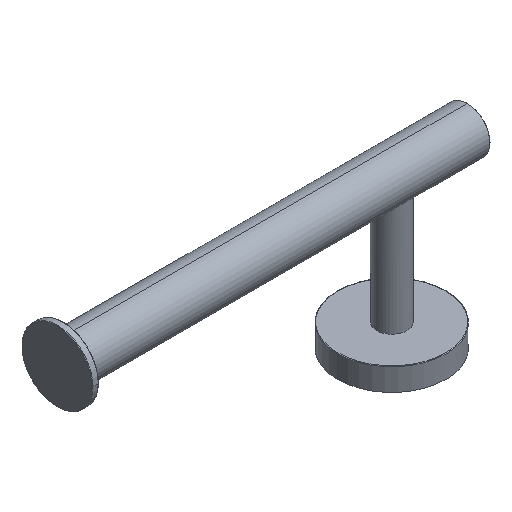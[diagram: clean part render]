
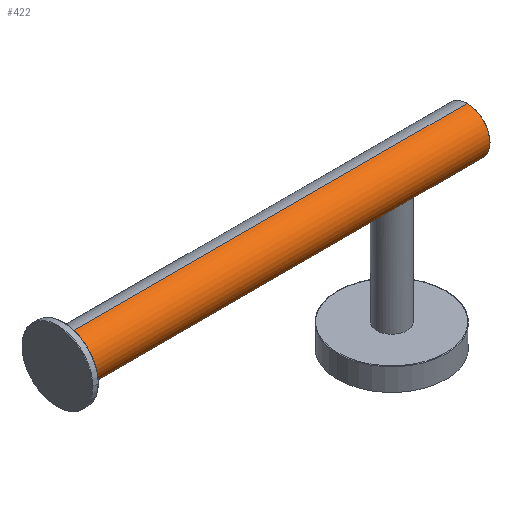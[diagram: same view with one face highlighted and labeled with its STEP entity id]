
A CAD part, isometric view. The second image highlights one B-rep face of the part: STEP entity #422.
In plain terms, the highlighted cylindrical face has radius 9 mm (diameter 18 mm), a partial arc.
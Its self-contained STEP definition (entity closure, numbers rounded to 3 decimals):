
#45=CARTESIAN_POINT('',(6.,0.,51.));
#64=CARTESIAN_POINT('',(-6.,0.,51.));
#80=DIRECTION('',(1.,0.,0.));
#81=VECTOR('',#80,124.);
#82=CARTESIAN_POINT('',(-130.,0.,51.));
#83=LINE('',#82,#81);
#84=DIRECTION('',(1.,0.,0.));
#85=VECTOR('',#84,23.8);
#86=CARTESIAN_POINT('',(6.,0.,51.));
#87=LINE('',#86,#85);
#108=CARTESIAN_POINT('',(29.8,0.,60.));
#109=DIRECTION('',(1.,0.,0.));
#110=DIRECTION('',(0.,0.,1.));
#111=AXIS2_PLACEMENT_3D('',#108,#109,#110);
#113=CARTESIAN_POINT('',(-130.,0.,60.));
#114=DIRECTION('',(1.,0.,0.));
#115=DIRECTION('',(0.,0.,1.));
#116=AXIS2_PLACEMENT_3D('',#113,#114,#115);
#118=DIRECTION('',(1.,0.,0.));
#119=VECTOR('',#118,159.8);
#120=CARTESIAN_POINT('',(-130.,0.,69.));
#121=LINE('',#120,#119);
#122=CARTESIAN_POINT('',(-6.,0.,51.));
#123=CARTESIAN_POINT('',(-6.,-0.373,51.));
#124=CARTESIAN_POINT('',(-5.932,-1.121,51.045));
#125=CARTESIAN_POINT('',(-5.602,-2.247,51.262));
#126=CARTESIAN_POINT('',(-5.099,-3.224,51.578));
#127=CARTESIAN_POINT('',(-4.439,-4.085,51.964));
#128=CARTESIAN_POINT('',(-3.632,-4.818,52.385));
#129=CARTESIAN_POINT('',(-2.686,-5.403,52.793));
#130=CARTESIAN_POINT('',(-1.662,-5.801,53.115));
#131=CARTESIAN_POINT('',(-0.557,-6.009,
53.299));
#132=CARTESIAN_POINT('',(0.547,-6.009,53.3));
#133=CARTESIAN_POINT('',(1.652,-5.803,53.118));
#134=CARTESIAN_POINT('',(2.677,-5.408,52.797));
#135=CARTESIAN_POINT('',(3.625,-4.824,52.388));
#136=CARTESIAN_POINT('',(4.434,-4.091,51.967));
#137=CARTESIAN_POINT('',(5.095,-3.229,51.58));
#138=CARTESIAN_POINT('',(5.601,-2.251,51.263));
#139=CARTESIAN_POINT('',(5.932,-1.123,51.046));
#140=CARTESIAN_POINT('',(6.,-0.374,51.));
#141=CARTESIAN_POINT('',(6.,0.,51.));
#237=VERTEX_POINT('',#45);
#238=VERTEX_POINT('',#64);
#239=CARTESIAN_POINT('',(-130.,0.,51.));
#240=CARTESIAN_POINT('',(-130.,0.,69.));
#241=VERTEX_POINT('',#239);
#242=VERTEX_POINT('',#240);
#247=CARTESIAN_POINT('',(29.8,0.,51.));
#248=CARTESIAN_POINT('',(29.8,0.,69.));
#249=VERTEX_POINT('',#247);
#250=VERTEX_POINT('',#248);
#407=CARTESIAN_POINT('',(-130.,0.,60.));
#408=DIRECTION('',(1.,0.,0.));
#409=DIRECTION('',(0.,0.,-1.));
#410=AXIS2_PLACEMENT_3D('',#407,#408,#409);
#411=CYLINDRICAL_SURFACE('',#410,9.);
#412=ORIENTED_EDGE('',*,*,#401,.T.);
#413=ORIENTED_EDGE('',*,*,#363,.F.);
#415=ORIENTED_EDGE('',*,*,#414,.F.);
#416=ORIENTED_EDGE('',*,*,#360,.F.);
#418=ORIENTED_EDGE('',*,*,#417,.F.);
#419=ORIENTED_EDGE('',*,*,#356,.T.);
#420=EDGE_LOOP('',(#412,#413,#415,#416,#418,#419));
#421=FACE_OUTER_BOUND('',#420,.F.);
#422=ADVANCED_FACE('',(#421),#411,.T.);
#112=CIRCLE('',#111,9.);
#117=CIRCLE('',#116,9.);
#142=B_SPLINE_CURVE_WITH_KNOTS('',3,(#122,#123,#124,#125,#126,#127,#128,#129,
#130,#131,#132,#133,#134,#135,#136,#137,#138,#139,#140,#141),.UNSPECIFIED.,.F.,
.F.,(4,1,1,1,1,1,1,1,1,1,1,1,1,1,1,1,1,4),(0.,0.059,
0.118,0.176,0.235,0.294,
0.353,0.412,0.471,0.529,
0.588,0.647,0.706,0.765,
0.824,0.882,0.941,1.),.UNSPECIFIED.);
#356=EDGE_CURVE('',#242,#250,#121,.T.);
#360=EDGE_CURVE('',#241,#238,#83,.T.);
#363=EDGE_CURVE('',#237,#249,#87,.T.);
#401=EDGE_CURVE('',#250,#249,#112,.T.);
#414=EDGE_CURVE('',#238,#237,#142,.T.);
#417=EDGE_CURVE('',#242,#241,#117,.T.);
